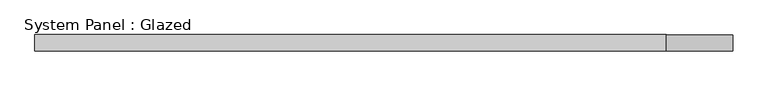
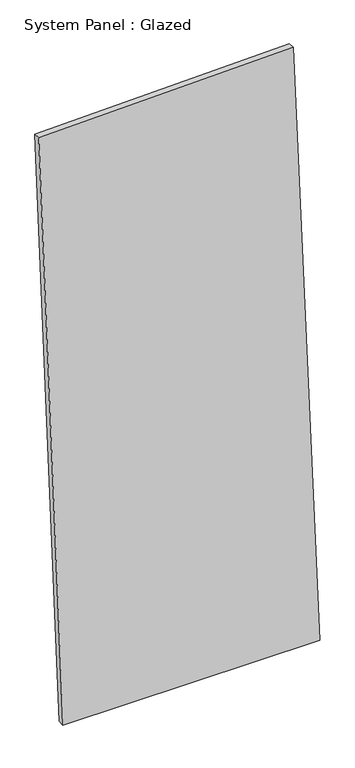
"""IFC4 building model written with IfcOpenShell, lengths in millimetres: plate geometry, System Panel : Glazed."""

from ifc_helpers import new_model, si_unit, frame, origin, place, context, project, spatial, polyline, outline, extrude, source, transform, mapped, element, save


def system_panel_glazed_68d94cce(model_context):
    return source(origin(), model_context, "Body", "SweptSolid", [
        extrude(outline(polyline([(0.0, -445.2365666), (0.0, 538.1771285), (2434.8859725, 436.1757887), (2410.0810968, -538.1771285), (0.0, -445.2365666)])), frame((0.0, -49.5, 0.0), z_axis=(0.0, 1.0, 0.0), x_axis=(0.0, 0.0, 1.0)), (0.0, 0.0, 1.0), 25.0),
    ])


if __name__ == "__main__":
    model = new_model("IFC4")
    model_context = context("Model", 3, world=origin())
    ifc_project = project(units=[si_unit("LENGTHUNIT", "METRE", prefix="MILLI")], contexts=[model_context])
    site = spatial("IfcSite", under=ifc_project)
    building = spatial("IfcBuilding", under=site)
    placement = place(None, origin())
    system_panel_glazed_shape = system_panel_glazed_68d94cce(model_context)
    element("IfcPlate", 1, ObjectType="System Panel : Glazed", at=placement, inside=building, context=model_context, shape_type="MappedRepresentation", body=[
        mapped(system_panel_glazed_shape, transform((0.0, 0.0, 0.0), x_axis=(1.0, 0.0, 0.0), y_axis=(0.0, 1.0, 0.0), z_axis=(0.0, 0.0, 1.0))),
    ])
    save(model, "model.ifc")
